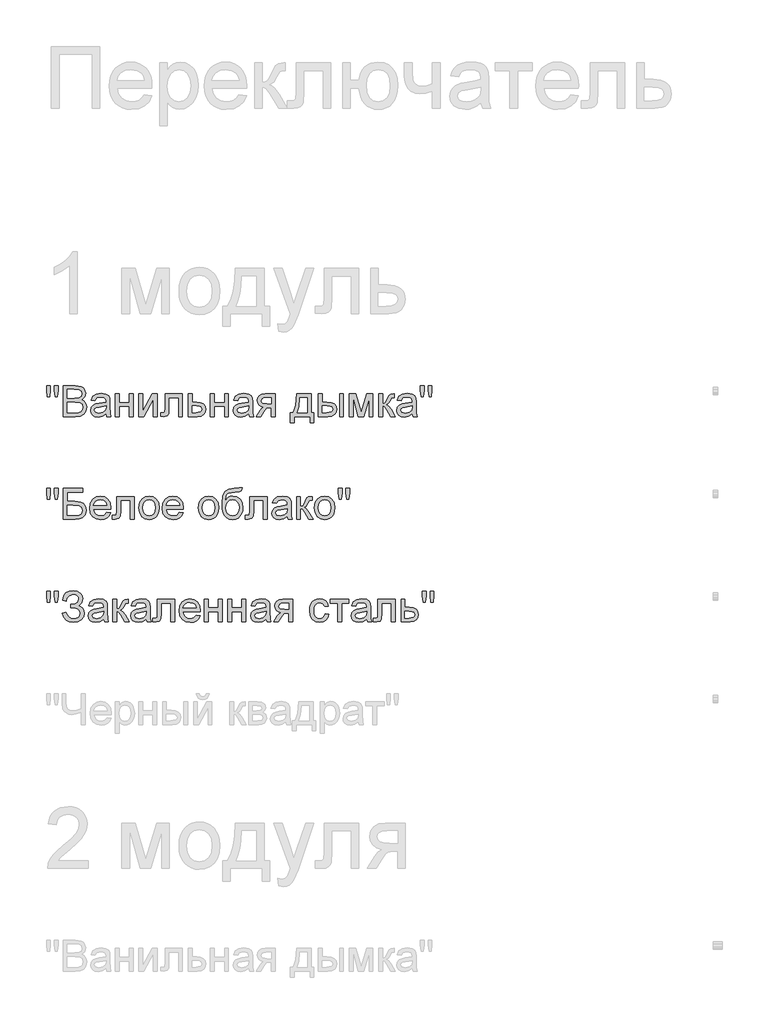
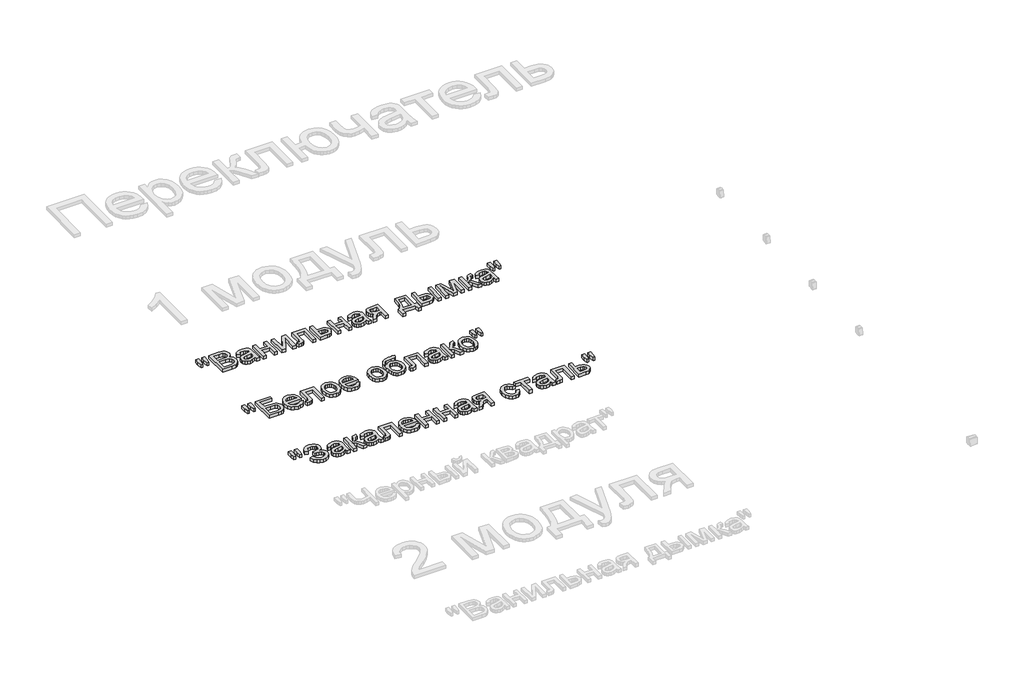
# One storey, part 55 of 168: 3 proxies.
"""IFC4 building model written with IfcOpenShell, lengths in millimetres."""

from ifc_helpers import new_model, si_unit, origin, origin_with_axes, place, context, project, spatial, polyline, outline, extrude, element, save

model = new_model("IFC4")

# Units and contexts
model_context = context("Model", 3, world=origin())
ifc_project = project(units=[si_unit("LENGTHUNIT", "METRE", prefix="MILLI")], contexts=[model_context])

# Site, building, storey
site = spatial("IfcSite", under=ifc_project)
building = spatial("IfcBuilding", under=site)
storey = spatial("IfcBuildingStorey", under=building, Name="Этаж 01", Elevation=0.0)

# Proxies
placement = place(None, origin())
element("IfcBuildingElementProxy", 1, Name="150", ObjectType="150", at=placement, inside=storey, context=model_context, shape_type="SweptSolid", body=[
    extrude(outline(polyline([(49080.1485789, -41970.3300622), (49075.550054, -41941.2305964), (49075.550054, -41916.1778325), (49094.3856121, -41916.1778325), (49094.3856121, -41941.2305964), (49090.2653338, -41970.3300622), (49080.1485789, -41970.3300622)])), origin_with_axes(), (0.0, 0.0, 1.0), 20.0),
    extrude(outline(polyline([(49117.7093306, -41970.3300622), (49113.2211703, -41941.2305964), (49113.2211703, -41916.1778325), (49132.0567284, -41916.1778325), (49132.0567284, -41941.2305964), (49127.6421445, -41970.3300622), (49117.7093306, -41970.3300622)])), origin_with_axes(), (0.0, 0.0, 1.0), 20.0),
    extrude(outline(polyline([(49157.9556209, -42066.8622977), (49157.9556209, -41916.1778325), (49215.4555767, -41916.1778325), (49243.6169435, -41920.6108106), (49253.0807078, -41926.2348066), (49260.2452096, -41934.2408385), (49266.2600803, -41953.517855), (49261.2017028, -41971.1210085), (49245.9162059, -41984.4567308), (49256.5893823, -41990.030143), (49264.4758526, -41998.509823), (49269.3456905, -42009.3347507), (49270.9689698, -42021.9439061), (49266.5359918, -42042.19581), (49255.5547142, -42056.6167842), (49239.1655713, -42064.2687297), (49215.0141183, -42066.8622977), (49157.9556209, -42066.8622977)]), holes=[polyline([(49176.791179, -41977.3933965), (49211.1881456, -41977.3933965), (49231.2745025, -41975.7747157), (49243.3594261, -41968.8033519), (49247.4245221, -41956.5344874), (49243.6353376, -41944.2472287), (49232.7828187, -41936.9815593), (49208.5761834, -41935.0133907), (49176.791179, -41935.0133907), (49176.791179, -41977.3933965)]), polyline([(49176.791179, -42048.0267396), (49215.4187885, -42048.0267396), (49229.3983043, -42047.2909756), (49241.2257105, -42043.1890913), (49249.061597, -42034.819776), (49252.1334117, -42022.1278471), (49248.5281681, -42007.4861437), (49236.8479148, -41998.7489463), (49213.5793786, -41996.2289547), (49176.791179, -41996.2289547), (49176.791179, -42048.0267396)])]), origin_with_axes(), (0.0, 0.0, 1.0), 20.0),
    extrude(outline(polyline([(49365.1467606, -42052.7356291), (49346.8814195, -42065.5011344), (49326.7030921, -42069.2167425), (49310.9623412, -42066.9818594), (49299.3510657, -42060.27721), (49292.1911624, -42050.0960758), (49289.804528, -42037.4317381), (49293.4097715, -42022.5325173), (49302.8827329, -42011.7167867), (49316.0713024, -42005.5363691), (49332.3684748, -42002.7036778), (49365.036396, -41996.2289547), (49365.1467606, -41992.0350999), (49363.8499765, -41983.6289963), (49359.9596244, -41978.1291605), (49351.2592153, -41974.0456704), (49339.1375035, -41972.684507), (49320.0812162, -41976.3081446), (49310.9945309, -41989.1656204), (49292.1589727, -41986.8111756), (49300.3075589, -41968.4170758), (49316.7150959, -41957.6381334), (49341.5655247, -41953.8489488), (49364.3926025, -41957.196675), (49377.2868664, -41965.6027786), (49383.0626137, -41978.3866779), (49383.9823187, -41994.8677913), (49383.9823187, -42018.3018744), (49384.9388119, -42051.0249778), (49388.6912083, -42066.8622977), (49369.8556501, -42066.8622977), (49365.1467606, -42052.7356291)]), holes=[polyline([(49365.1467606, -42015.0645128), (49334.7597078, -42020.8402601), (49318.5545059, -42023.8936807), (49311.2152601, -42028.8600876), (49308.6400861, -42036.1073629), (49314.2502865, -42046.2976942), (49330.7130058, -42050.3811843), (49349.7692932, -42045.8746299), (49362.0565518, -42034.9669288), (49365.036396, -42020.3988017), (49365.1467606, -42015.0645128)])]), origin_with_axes(), (0.0, 0.0, 1.0), 20.0),
    extrude(outline(polyline([(49409.8812112, -41956.2033936), (49428.7167693, -41956.2033936), (49428.7167693, -41998.5833994), (49478.1601095, -41998.5833994), (49478.1601095, -41956.2033936), (49496.9956676, -41956.2033936), (49496.9956676, -42066.8622977), (49478.1601095, -42066.8622977), (49478.1601095, -42017.4189576), (49428.7167693, -42017.4189576), (49428.7167693, -42066.8622977), (49409.8812112, -42066.8622977), (49409.8812112, -41956.2033936)])), origin_with_axes(), (0.0, 0.0, 1.0), 20.0),
    extrude(outline(polyline([(49525.2490049, -41956.2033936), (49544.084563, -41956.2033936), (49544.084563, -42040.5955233), (49590.364118, -41956.2033936), (49614.7179061, -41956.2033936), (49614.7179061, -42066.8622977), (49595.8823479, -42066.8622977), (49595.8823479, -41982.9852028), (49549.8970985, -42066.8622977), (49525.2490049, -42066.8622977), (49525.2490049, -41956.2033936)])), origin_with_axes(), (0.0, 0.0, 1.0), 20.0),
    extrude(outline(polyline([(49652.3890224, -41956.2033936), (49737.1490341, -41956.2033936), (49737.1490341, -42066.7519331), (49718.3134759, -42066.7519331), (49718.3134759, -41975.0389517), (49671.2245806, -41975.0389517), (49671.2245806, -42027.830018), (49669.9553877, -42052.1838061), (49662.9840239, -42062.4661079), (49646.5029105, -42066.8622977), (49631.1990195, -42065.9058045), (49631.1990195, -42048.0267396), (49639.6235172, -42048.0267396), (49648.1399854, -42046.8679113), (49651.5428938, -42043.1890913), (49652.3890224, -42026.7631603), (49652.3890224, -41956.2033936)])), origin_with_axes(), (0.0, 0.0, 1.0), 20.0),
    extrude(outline(polyline([(49765.4023713, -41956.2033936), (49784.2379295, -41956.2033936), (49784.2379295, -41996.2289547), (49805.9429672, -41996.2289547), (49824.7601312, -41998.587998), (49838.6844648, -42005.6651278), (49847.2929034, -42016.8901272), (49850.162383, -42031.692779), (49847.7205663, -42045.1710556), (49840.395116, -42056.5432078), (49827.6985887, -42064.2825252), (49809.1435405, -42066.8622977), (49765.4023713, -42066.8622977), (49765.4023713, -41956.2033936)]), holes=[polyline([(49784.2379295, -42048.0267396), (49801.8226888, -42048.0267396), (49824.539402, -42044.0720081), (49829.6299692, -42039.0090322), (49831.3268249, -42031.7295672), (49826.3052356, -42020.1412843), (49818.2348244, -42016.3337057), (49804.066769, -42015.0645128), (49784.2379295, -42015.0645128), (49784.2379295, -42048.0267396)])]), origin_with_axes(), (0.0, 0.0, 1.0), 20.0),
    extrude(outline(polyline([(49873.7068307, -41956.2033936), (49892.5423889, -41956.2033936), (49892.5423889, -41998.5833994), (49941.985729, -41998.5833994), (49941.985729, -41956.2033936), (49960.8212872, -41956.2033936), (49960.8212872, -42066.8622977), (49941.985729, -42066.8622977), (49941.985729, -42017.4189576), (49892.5423889, -42017.4189576), (49892.5423889, -42066.8622977), (49873.7068307, -42066.8622977), (49873.7068307, -41956.2033936)])), origin_with_axes(), (0.0, 0.0, 1.0), 20.0),
    extrude(outline(polyline([(50059.7079675, -42052.7356291), (50041.4426264, -42065.5011344), (50021.264299, -42069.2167425), (50005.5235481, -42066.9818594), (49993.9122726, -42060.27721), (49986.7523693, -42050.0960758), (49984.3657349, -42037.4317381), (49987.9709784, -42022.5325173), (49997.4439398, -42011.7167867), (50010.6325093, -42005.5363691), (50026.9296817, -42002.7036778), (50059.5976029, -41996.2289547), (50059.7079675, -41992.0350999), (50058.4111834, -41983.6289963), (50054.5208313, -41978.1291605), (50045.8204221, -41974.0456704), (50033.6987104, -41972.684507), (50014.6424231, -41976.3081446), (50005.5557378, -41989.1656204), (49986.7201796, -41986.8111756), (49994.8687658, -41968.4170758), (50011.2763028, -41957.6381334), (50036.1267316, -41953.8489488), (50058.9538094, -41957.196675), (50071.8480733, -41965.6027786), (50077.6238206, -41978.3866779), (50078.5435256, -41994.8677913), (50078.5435256, -42018.3018744), (50079.5000188, -42051.0249778), (50083.2524152, -42066.8622977), (50064.416857, -42066.8622977), (50059.7079675, -42052.7356291)]), holes=[polyline([(50059.7079675, -42015.0645128), (50029.3209147, -42020.8402601), (50013.1157128, -42023.8936807), (50005.776467, -42028.8600876), (50003.201293, -42036.1073629), (50008.8114934, -42046.2976942), (50025.2742127, -42050.3811843), (50044.3305001, -42045.8746299), (50056.6177587, -42034.9669288), (50059.5976029, -42020.3988017), (50059.7079675, -42015.0645128)])]), origin_with_axes(), (0.0, 0.0, 1.0), 20.0),
    extrude(outline(polyline([(50189.2024298, -41956.2033936), (50189.2024298, -42066.8622977), (50170.3668716, -42066.8622977), (50170.3668716, -42024.4822919), (50160.1029639, -42024.4822919), (50146.1234481, -42026.8735249), (50132.9900609, -42042.949968), (50117.9804755, -42066.8622977), (50096.2018614, -42066.8622977), (50115.1109959, -42036.6223977), (50123.4619172, -42025.7698789), (50131.1506509, -42020.9506247), (50118.2747811, -42017.0050903), (50109.224884, -42009.5094947), (50103.872201, -41999.5398926), (50102.0879733, -41988.172339), (50104.5251915, -41975.278075), (50111.8368462, -41965.0693497), (50123.7654199, -41958.4198826), (50140.0533952, -41956.2033936), (50189.2024298, -41956.2033936)]), holes=[polyline([(50170.3668716, -41975.0389517), (50145.5348369, -41975.0389517), (50132.7095509, -41976.1288021), (50125.4300859, -41979.3983534), (50120.9235315, -41989.6070787), (50122.583599, -41996.7853762), (50127.5638015, -42001.7655787), (50151.0898551, -42005.6467337), (50170.3668716, -42005.6467337), (50170.3668716, -41975.0389517)])]), origin_with_axes(), (0.0, 0.0, 1.0), 20.0),
    extrude(outline(polyline([(50292.7979996, -41956.2033936), (50363.4313427, -41956.2033936), (50363.4313427, -42048.0267396), (50377.5580113, -42048.0267396), (50377.5580113, -42097.4700797), (50358.7224531, -42097.4700797), (50358.7224531, -42066.8622977), (50281.0257758, -42066.8622977), (50281.0257758, -42097.4700797), (50262.1902176, -42097.4700797), (50262.1902176, -42048.0267396), (50273.9624415, -42048.0267396), (50282.5202964, -42032.5619002), (50288.5121744, -42012.1030628), (50292.7979996, -41956.2033936)]), holes=[polyline([(50309.279113, -41975.0389517), (50304.864529, -42017.9523865), (50295.1524444, -42048.0267396), (50344.5957845, -42048.0267396), (50344.5957845, -41975.0389517), (50309.279113, -41975.0389517)])]), origin_with_axes(), (0.0, 0.0, 1.0), 20.0),
    extrude(outline(polyline([(50502.3435841, -41956.2033936), (50521.1791422, -41956.2033936), (50521.1791422, -42066.8622977), (50502.3435841, -42066.8622977), (50502.3435841, -41956.2033936)])), origin_with_axes(), (0.0, 0.0, 1.0), 20.0),
    extrude(outline(polyline([(50398.7480142, -41956.2033936), (50417.5835724, -41956.2033936), (50417.5835724, -41996.2289547), (50440.8705027, -41996.2289547), (50460.9982463, -41998.587998), (50475.9112627, -42005.6651278), (50485.1405023, -42016.8901272), (50488.2169154, -42031.692779), (50485.637143, -42045.1710556), (50477.8978255, -42056.5432078), (50464.4931253, -42064.2825252), (50444.9172046, -42066.8622977), (50398.7480142, -42066.8622977), (50398.7480142, -41956.2033936)]), holes=[polyline([(50417.5835724, -42048.0267396), (50436.9341653, -42048.0267396), (50461.9133528, -42044.0720081), (50467.5143562, -42039.0090322), (50469.3813573, -42031.7295672), (50463.8447333, -42020.1412843), (50454.9649816, -42016.3337057), (50439.3989747, -42015.0645128), (50417.5835724, -42015.0645128), (50417.5835724, -42048.0267396)])]), origin_with_axes(), (0.0, 0.0, 1.0), 20.0),
    extrude(outline(polyline([(50549.4324794, -41956.2033936), (50581.8428832, -41956.2033936), (50606.8220707, -42044.789378), (50633.7510327, -41956.2033936), (50664.8002731, -41956.2033936), (50664.8002731, -42066.8622977), (50645.964715, -42066.8622977), (50645.964715, -41977.7612785), (50618.8886001, -42066.8622977), (50594.1669301, -42066.8622977), (50568.2680376, -41973.4938474), (50568.2680376, -42066.8622977), (50549.4324794, -42066.8622977), (50549.4324794, -41956.2033936)])), origin_with_axes(), (0.0, 0.0, 1.0), 20.0),
    extrude(outline(polyline([(50693.0536104, -41956.2033936), (50711.8891685, -41956.2033936), (50711.8891685, -42003.292289), (50724.5075209, -41999.9077746), (50734.845005, -41980.1892997), (50743.4350496, -41963.1747574), (50751.0134187, -41957.6381334), (50764.7905994, -41956.2033936), (50768.395843, -41956.2033936), (50768.395843, -41975.1493163), (50763.3190714, -41975.0389517), (50754.1220216, -41977.0255145), (50747.6472984, -41989.4231377), (50740.0505352, -42002.8324365), (50729.4003515, -42009.3991301), (50741.2829399, -42016.7291788), (50752.9447992, -42032.1710256), (50773.1047325, -42066.8622977), (50751.6940004, -42066.8622977), (50731.9387372, -42032.9067896), (50722.0059234, -42018.5409977), (50711.8891685, -42015.0645128), (50711.8891685, -42066.8622977), (50693.0536104, -42066.8622977), (50693.0536104, -41956.2033936)])), origin_with_axes(), (0.0, 0.0, 1.0), 20.0),
    extrude(outline(polyline([(50855.5102994, -42052.7356291), (50837.2449584, -42065.5011344), (50817.0666309, -42069.2167425), (50801.3258801, -42066.9818594), (50789.7146046, -42060.27721), (50782.5547013, -42050.0960758), (50780.1680668, -42037.4317381), (50783.7733104, -42022.5325173), (50793.2462717, -42011.7167867), (50806.4348413, -42005.5363691), (50822.7320137, -42002.7036778), (50855.3999348, -41996.2289547), (50855.5102994, -41992.0350999), (50854.2135154, -41983.6289963), (50850.3231633, -41978.1291605), (50841.6227541, -41974.0456704), (50829.5010424, -41972.684507), (50810.444755, -41976.3081446), (50801.3580697, -41989.1656204), (50782.5225116, -41986.8111756), (50790.6710978, -41968.4170758), (50807.0786348, -41957.6381334), (50831.9290635, -41953.8489488), (50854.7561413, -41957.196675), (50867.6504053, -41965.6027786), (50873.4261526, -41978.3866779), (50874.3458576, -41994.8677913), (50874.3458576, -42018.3018744), (50875.3023508, -42051.0249778), (50879.0547471, -42066.8622977), (50860.219189, -42066.8622977), (50855.5102994, -42052.7356291)]), holes=[polyline([(50855.5102994, -42015.0645128), (50825.1232466, -42020.8402601), (50808.9180447, -42023.8936807), (50801.5787989, -42028.8600876), (50799.003625, -42036.1073629), (50804.6138254, -42046.2976942), (50821.0765447, -42050.3811843), (50840.132832, -42045.8746299), (50852.4200907, -42034.9669288), (50855.3999348, -42020.3988017), (50855.5102994, -42015.0645128)])]), origin_with_axes(), (0.0, 0.0, 1.0), 20.0),
    extrude(outline(polyline([(50900.1343854, -41970.3300622), (50895.5358605, -41941.2305964), (50895.5358605, -41916.1778325), (50914.3714187, -41916.1778325), (50914.3714187, -41941.2305964), (50910.2511403, -41970.3300622), (50900.1343854, -41970.3300622)])), origin_with_axes(), (0.0, 0.0, 1.0), 20.0),
    extrude(outline(polyline([(50937.6951372, -41970.3300622), (50933.2069768, -41941.2305964), (50933.2069768, -41916.1778325), (50952.042535, -41916.1778325), (50952.042535, -41941.2305964), (50947.627951, -41970.3300622), (50937.6951372, -41970.3300622)])), origin_with_axes(), (0.0, 0.0, 1.0), 20.0),
])
element("IfcBuildingElementProxy", 2, Name="150", ObjectType="150", at=placement, inside=storey, context=model_context, shape_type="SweptSolid", body=[
    extrude(outline(polyline([(49080.1485789, -42470.3300622), (49075.550054, -42441.2305964), (49075.550054, -42416.1778325), (49094.3856121, -42416.1778325), (49094.3856121, -42441.2305964), (49090.2653338, -42470.3300622), (49080.1485789, -42470.3300622)])), origin_with_axes(), (0.0, 0.0, 1.0), 20.0),
    extrude(outline(polyline([(49117.7093306, -42470.3300622), (49113.2211703, -42441.2305964), (49113.2211703, -42416.1778325), (49132.0567284, -42416.1778325), (49132.0567284, -42441.2305964), (49127.6421445, -42470.3300622), (49117.7093306, -42470.3300622)])), origin_with_axes(), (0.0, 0.0, 1.0), 20.0),
    extrude(outline(polyline([(49157.9556209, -42416.1778325), (49252.1334117, -42416.1778325), (49252.1334117, -42435.0133907), (49176.791179, -42435.0133907), (49176.791179, -42479.7478413), (49212.0710624, -42479.7478413), (49243.157091, -42483.573814), (49253.5589544, -42489.101241), (49261.6615553, -42498.0315764), (49266.8762826, -42509.5278888), (49268.614525, -42522.7532465), (49263.6665122, -42544.2191609), (49248.8960501, -42560.5347274), (49235.6247071, -42565.2804052), (49215.4555767, -42566.8622977), (49157.9556209, -42566.8622977), (49157.9556209, -42416.1778325)]), holes=[polyline([(49176.791179, -42548.0267396), (49217.1478339, -42548.0267396), (49231.4124583, -42546.4724382), (49241.6119866, -42541.8095339), (49247.7372218, -42534.0380267), (49249.7789669, -42523.1579167), (49245.1068655, -42508.4058487), (49232.102237, -42500.533174), (49203.7201411, -42498.5833994), (49176.791179, -42498.5833994), (49176.791179, -42548.0267396)])]), origin_with_axes(), (0.0, 0.0, 1.0), 20.0),
    extrude(outline(polyline([(49369.6349209, -42533.900071), (49388.1025971, -42536.2545157), (49381.4485315, -42550.1696522), (49370.8305374, -42560.5715156), (49356.4877381, -42567.0554358), (49338.6592569, -42569.2167425), (49316.5587461, -42565.4873388), (49299.5534008, -42554.2991276), (49288.710079, -42536.3786759), (49285.0956384, -42512.4525506), (49288.7468672, -42487.7216835), (49299.7005536, -42469.2264162), (49316.4759726, -42457.6933157), (49337.5923991, -42453.8489488), (49358.0512366, -42457.6841186), (49374.3989927, -42469.189628), (49385.1181544, -42487.6481071), (49388.6912083, -42512.342186), (49388.5808437, -42517.4189576), (49303.9311966, -42517.4189576), (49307.1915508, -42531.518035), (49314.7653213, -42541.8831103), (49325.6960151, -42548.2566658), (49339.0271389, -42550.3811843), (49357.4948151, -42546.444847), (49369.6349209, -42533.900071)]), holes=[polyline([(49303.9311966, -42498.5833994), (49369.8556501, -42498.5833994), (49367.3080673, -42488.6321915), (49362.3140692, -42481.5136749), (49351.3327917, -42474.8917989), (49337.5188227, -42472.684507), (49324.8222954, -42474.445742), (49314.3238629, -42479.7294472), (49307.0260039, -42487.9654053), (49303.9311966, -42498.5833994)])]), origin_with_axes(), (0.0, 0.0, 1.0), 20.0),
    extrude(outline(polyline([(49416.9445455, -42456.2033936), (49501.7045572, -42456.2033936), (49501.7045572, -42566.7519331), (49482.868999, -42566.7519331), (49482.868999, -42475.0389517), (49435.7801036, -42475.0389517), (49435.7801036, -42527.830018), (49434.5109108, -42552.1838061), (49427.539547, -42562.4661079), (49411.0584336, -42566.8622977), (49395.7545426, -42565.9058045), (49395.7545426, -42548.0267396), (49404.1790403, -42548.0267396), (49412.6955084, -42546.8679113), (49416.0984169, -42543.1890913), (49416.9445455, -42526.7631603), (49416.9445455, -42456.2033936)])), origin_with_axes(), (0.0, 0.0, 1.0), 20.0),
    extrude(outline(polyline([(49525.2490049, -42511.5328457), (49529.323298, -42484.852204), (49541.5461773, -42466.0994193), (49556.6477332, -42456.9115664), (49574.7291332, -42453.8489488), (49594.516586, -42457.5783525), (49610.3217163, -42468.7665637), (49620.6821929, -42486.5306656), (49624.1356852, -42509.9877413), (49622.6089749, -42529.0164375), (49618.0288441, -42543.501791), (49610.5286499, -42554.3497114), (49600.2417496, -42562.4661079), (49588.0234688, -42567.5290839), (49574.7291332, -42569.2167425), (49554.7025571, -42565.5011344), (49538.915821, -42554.3543099), (49528.6657089, -42536.2177275), (49525.2490049, -42511.5328457)]), holes=[polyline([(49544.084563, -42511.4960575), (49546.2642638, -42528.5427894), (49552.8033663, -42540.6874938), (49562.6442097, -42547.9577617), (49574.7291332, -42550.3811843), (49586.7588745, -42547.9439661), (49596.5813237, -42540.6323115), (49603.1204262, -42528.3266587), (49605.300127, -42510.9074463), (49603.1066306, -42494.357355), (49596.5261414, -42482.3781975), (49586.6898966, -42475.1079296), (49574.7291332, -42472.684507), (49562.6442097, -42475.0987326), (49552.8033663, -42482.3414093), (49546.2642638, -42494.4585226), (49544.084563, -42511.4960575)])]), origin_with_axes(), (0.0, 0.0, 1.0), 20.0),
    extrude(outline(polyline([(49722.8016363, -42533.900071), (49741.2693124, -42536.2545157), (49734.6152469, -42550.1696522), (49723.9972528, -42560.5715156), (49709.6544535, -42567.0554358), (49691.8259723, -42569.2167425), (49669.7254614, -42565.4873388), (49652.7201162, -42554.2991276), (49641.8767944, -42536.3786759), (49638.2623538, -42512.4525506), (49641.9135826, -42487.7216835), (49652.867269, -42469.2264162), (49669.642688, -42457.6933157), (49690.7591145, -42453.8489488), (49711.217952, -42457.6841186), (49727.5657081, -42469.189628), (49738.2848698, -42487.6481071), (49741.8579236, -42512.342186), (49741.747559, -42517.4189576), (49657.0979119, -42517.4189576), (49660.3582661, -42531.518035), (49667.9320367, -42541.8831103), (49678.8627305, -42548.2566658), (49692.1938543, -42550.3811843), (49710.6615304, -42546.444847), (49722.8016363, -42533.900071)]), holes=[polyline([(49657.0979119, -42498.5833994), (49723.0223655, -42498.5833994), (49720.4747827, -42488.6321915), (49715.4807846, -42481.5136749), (49704.499507, -42474.8917989), (49690.6855381, -42472.684507), (49677.9890107, -42474.445742), (49667.4905783, -42479.7294472), (49660.1927192, -42487.9654053), (49657.0979119, -42498.5833994)])]), origin_with_axes(), (0.0, 0.0, 1.0), 20.0),
    extrude(outline(polyline([(49814.8457115, -42511.5328457), (49818.9200046, -42484.852204), (49831.1428839, -42466.0994193), (49846.2444398, -42456.9115664), (49864.3258398, -42453.8489488), (49884.1132926, -42457.5783525), (49899.9184229, -42468.7665637), (49910.2788995, -42486.5306656), (49913.7323918, -42509.9877413), (49912.2056815, -42529.0164375), (49907.6255507, -42543.501791), (49900.1253565, -42554.3497114), (49889.8384562, -42562.4661079), (49877.6201754, -42567.5290839), (49864.3258398, -42569.2167425), (49844.2992637, -42565.5011344), (49828.5125276, -42554.3543099), (49818.2624155, -42536.2177275), (49814.8457115, -42511.5328457)]), holes=[polyline([(49833.6812696, -42511.4960575), (49835.8609704, -42528.5427894), (49842.4000729, -42540.6874938), (49852.2409163, -42547.9577617), (49864.3258398, -42550.3811843), (49876.3555811, -42547.9439661), (49886.1780303, -42540.6323115), (49892.7171328, -42528.3266587), (49894.8968336, -42510.9074463), (49892.7033372, -42494.357355), (49886.122848, -42482.3781975), (49876.2866032, -42475.1079296), (49864.3258398, -42472.684507), (49852.2409163, -42475.0987326), (49842.4000729, -42482.3414093), (49835.8609704, -42494.4585226), (49833.6812696, -42511.4960575)])]), origin_with_axes(), (0.0, 0.0, 1.0), 20.0),
    extrude(outline(polyline([(50012.6190721, -42413.8233877), (50029.1001855, -42413.8233877), (50024.2441431, -42428.5202734), (50014.6424231, -42433.8361683), (49991.576222, -42435.0133907), (49960.5085875, -42439.3543982), (49953.3808738, -42445.0013868), (49948.5892108, -42453.2603376), (49944.560903, -42477.8716431), (49960.8764695, -42459.8454253), (49970.7954878, -42455.3480679), (49981.9009255, -42453.8489488), (50001.4998388, -42457.661126), (50017.401538, -42469.0976575), (50027.9413572, -42487.0365033), (50031.4546302, -42510.3556233), (50029.7117893, -42528.3358558), (50024.4832664, -42542.766027), (50007.9469707, -42562.3189551), (49996.6529935, -42567.4922957), (49981.9009255, -42569.2167425), (49964.9001788, -42566.995655), (49952.1576662, -42560.3323923), (49942.7812738, -42550.2064404), (49935.8788879, -42537.597285), (49931.6298508, -42518.6099755), (49930.2135052, -42489.3495614), (49933.786559, -42453.2097538), (49944.5057207, -42431.1690238), (49962.6377045, -42419.9256303), (49988.449225, -42416.1778325), (50009.4184987, -42415.7547682), (50012.6190721, -42413.8233877)]), holes=[polyline([(50012.6190721, -42509.7670121), (50010.577327, -42494.9459662), (50004.4520918, -42483.0771733), (49994.6112484, -42475.2826736), (49981.4226789, -42472.684507), (49967.6730893, -42475.4298264), (49957.473561, -42483.6657845), (49951.1551877, -42496.4910706), (49949.0490633, -42513.0043736), (49951.3759169, -42529.011839), (49958.3564778, -42540.7610702), (49968.7491442, -42547.9761558), (49981.3123143, -42550.3811843), (49993.9398638, -42547.5990768), (50003.937057, -42539.252754), (50010.4485683, -42526.3171033), (50012.6190721, -42509.7670121)])]), origin_with_axes(), (0.0, 0.0, 1.0), 20.0),
    extrude(outline(polyline([(50064.416857, -42456.2033936), (50149.1768687, -42456.2033936), (50149.1768687, -42566.7519331), (50130.3413105, -42566.7519331), (50130.3413105, -42475.0389517), (50083.2524152, -42475.0389517), (50083.2524152, -42527.830018), (50081.9832223, -42552.1838061), (50075.0118585, -42562.4661079), (50058.5307451, -42566.8622977), (50043.2268541, -42565.9058045), (50043.2268541, -42548.0267396), (50051.6513518, -42548.0267396), (50060.16782, -42546.8679113), (50063.5707284, -42543.1890913), (50064.416857, -42526.7631603), (50064.416857, -42456.2033936)])), origin_with_axes(), (0.0, 0.0, 1.0), 20.0),
    extrude(outline(polyline([(50248.063549, -42552.7356291), (50229.7982079, -42565.5011344), (50209.6198805, -42569.2167425), (50193.8791296, -42566.9818594), (50182.2678542, -42560.27721), (50175.1079508, -42550.0960758), (50172.7213164, -42537.4317381), (50176.3265599, -42522.5325173), (50185.7995213, -42511.7167867), (50198.9880908, -42505.5363691), (50215.2852632, -42502.7036778), (50247.9531844, -42496.2289547), (50248.063549, -42492.0350999), (50246.766765, -42483.6289963), (50242.8764129, -42478.1291605), (50234.1760037, -42474.0456704), (50222.0542919, -42472.684507), (50202.9980046, -42476.3081446), (50193.9113193, -42489.1656204), (50175.0757612, -42486.8111756), (50183.2243473, -42468.4170758), (50199.6318843, -42457.6381334), (50224.4823131, -42453.8489488), (50247.3093909, -42457.196675), (50260.2036548, -42465.6027786), (50265.9794022, -42478.3866779), (50266.8991071, -42494.8677913), (50266.8991071, -42518.3018744), (50267.8556003, -42551.0249778), (50271.6079967, -42566.8622977), (50252.7724385, -42566.8622977), (50248.063549, -42552.7356291)]), holes=[polyline([(50248.063549, -42515.0645128), (50217.6764962, -42520.8402601), (50201.4712943, -42523.8936807), (50194.1320485, -42528.8600876), (50191.5568745, -42536.1073629), (50197.167075, -42546.2976942), (50213.6297942, -42550.3811843), (50232.6860816, -42545.8746299), (50244.9733402, -42534.9669288), (50247.9531844, -42520.3988017), (50248.063549, -42515.0645128)])]), origin_with_axes(), (0.0, 0.0, 1.0), 20.0),
    extrude(outline(polyline([(50292.7979996, -42456.2033936), (50311.6335578, -42456.2033936), (50311.6335578, -42503.292289), (50324.2519102, -42499.9077746), (50334.5893943, -42480.1892997), (50343.1794388, -42463.1747574), (50350.7578079, -42457.6381334), (50364.5349887, -42456.2033936), (50368.1402322, -42456.2033936), (50368.1402322, -42475.1493163), (50363.0634607, -42475.0389517), (50353.8664108, -42477.0255145), (50347.3916877, -42489.4231377), (50339.7949245, -42502.8324365), (50329.1447407, -42509.3991301), (50341.0273292, -42516.7291788), (50352.6891884, -42532.1710256), (50372.8491218, -42566.8622977), (50351.4383896, -42566.8622977), (50331.6831265, -42532.9067896), (50321.7503126, -42518.5409977), (50311.6335578, -42515.0645128), (50311.6335578, -42566.8622977), (50292.7979996, -42566.8622977), (50292.7979996, -42456.2033936)])), origin_with_axes(), (0.0, 0.0, 1.0), 20.0),
    extrude(outline(polyline([(50379.9124561, -42511.5328457), (50383.9867492, -42484.852204), (50396.2096285, -42466.0994193), (50411.3111844, -42456.9115664), (50429.3925844, -42453.8489488), (50449.1800372, -42457.5783525), (50464.9851674, -42468.7665637), (50475.3456441, -42486.5306656), (50478.7991364, -42509.9877413), (50477.2724261, -42529.0164375), (50472.6922952, -42543.501791), (50465.1921011, -42554.3497114), (50454.9052008, -42562.4661079), (50442.68692, -42567.5290839), (50429.3925844, -42569.2167425), (50409.3660083, -42565.5011344), (50393.5792722, -42554.3543099), (50383.3291601, -42536.2177275), (50379.9124561, -42511.5328457)]), holes=[polyline([(50398.7480142, -42511.4960575), (50400.927715, -42528.5427894), (50407.4668175, -42540.6874938), (50417.3076609, -42547.9577617), (50429.3925844, -42550.3811843), (50441.4223257, -42547.9439661), (50451.2447749, -42540.6323115), (50457.7838774, -42528.3266587), (50459.9635782, -42510.9074463), (50457.7700818, -42494.357355), (50451.1895926, -42482.3781975), (50441.3533478, -42475.1079296), (50429.3925844, -42472.684507), (50417.3076609, -42475.0987326), (50407.4668175, -42482.3414093), (50400.927715, -42494.4585226), (50398.7480142, -42511.4960575)])]), origin_with_axes(), (0.0, 0.0, 1.0), 20.0),
    extrude(outline(polyline([(50499.8787747, -42470.3300622), (50495.2802498, -42441.2305964), (50495.2802498, -42416.1778325), (50514.1158079, -42416.1778325), (50514.1158079, -42441.2305964), (50509.9955296, -42470.3300622), (50499.8787747, -42470.3300622)])), origin_with_axes(), (0.0, 0.0, 1.0), 20.0),
    extrude(outline(polyline([(50537.4395264, -42470.3300622), (50532.9513661, -42441.2305964), (50532.9513661, -42416.1778325), (50551.7869242, -42416.1778325), (50551.7869242, -42441.2305964), (50547.3723403, -42470.3300622), (50537.4395264, -42470.3300622)])), origin_with_axes(), (0.0, 0.0, 1.0), 20.0),
])
element("IfcBuildingElementProxy", 3, Name="150", ObjectType="150", at=placement, inside=storey, context=model_context, shape_type="SweptSolid", body=[
    extrude(outline(polyline([(49080.1485789, -42970.3300622), (49075.550054, -42941.2305964), (49075.550054, -42916.1778325), (49094.3856121, -42916.1778325), (49094.3856121, -42941.2305964), (49090.2653338, -42970.3300622), (49080.1485789, -42970.3300622)])), origin_with_axes(), (0.0, 0.0, 1.0), 20.0),
    extrude(outline(polyline([(49117.7093306, -42970.3300622), (49113.2211703, -42941.2305964), (49113.2211703, -42916.1778325), (49132.0567284, -42916.1778325), (49132.0567284, -42941.2305964), (49127.6421445, -42970.3300622), (49117.7093306, -42970.3300622)])), origin_with_axes(), (0.0, 0.0, 1.0), 20.0),
    extrude(outline(polyline([(49150.8922866, -43024.4822919), (49169.7278447, -43019.7734024), (49181.2977335, -43040.172459), (49192.2284273, -43047.829003), (49206.2217387, -43050.3811843), (49220.398991, -43048.4635995), (49231.2193202, -43042.7108448), (49238.0757209, -43034.2449603), (49240.3611878, -43024.1879863), (49237.8641888, -43013.6527657), (49230.3731916, -43005.517975), (49218.5779752, -43000.3170433), (49203.1683181, -42998.5833994), (49193.2722924, -42998.5833994), (49193.2722924, -42979.7478413), (49214.591054, -42978.221131), (49227.6324708, -42970.4220327), (49233.2978535, -42956.1666054), (49231.4124583, -42947.2960508), (49225.7562726, -42939.6670979), (49216.8811195, -42934.4109839), (49205.3388219, -42932.6589459), (49186.1169876, -42938.0484171), (49175.117316, -42952.3406326), (49172.0822895, -42965.6211727), (49153.2467313, -42960.9122831), (49159.0983543, -42940.3108914), (49169.7002536, -42925.5956116), (49185.0524291, -42916.7664437), (49205.1548809, -42913.8233877), (49224.5468605, -42916.8814068), (49239.4598769, -42926.0554641), (49248.965028, -42939.3222085), (49252.1334117, -42954.6582892), (49247.2037929, -42973.3007093), (49232.4149367, -42987.2158458), (49242.8903765, -42992.0396984), (49251.5080123, -43000.1836861), (49257.2745625, -43010.948833), (49259.196746, -43023.6361633), (49255.508729, -43041.4738415), (49244.444678, -43056.1385376), (49227.2921799, -43065.9471913), (49205.3388219, -43069.2167425), (49186.2365493, -43066.4208393), (49170.7947025, -43058.0331298), (49159.0132816, -43044.053614), (49150.8922866, -43024.4822919)])), origin_with_axes(), (0.0, 0.0, 1.0), 20.0),
    extrude(outline(polyline([(49353.3745367, -43052.7356291), (49335.1091957, -43065.5011344), (49314.9308682, -43069.2167425), (49299.1901174, -43066.9818594), (49287.5788419, -43060.27721), (49280.4189386, -43050.0960758), (49278.0323041, -43037.4317381), (49281.6375477, -43022.5325173), (49291.110509, -43011.7167867), (49304.2990786, -43005.5363691), (49320.596251, -43002.7036778), (49353.2641721, -42996.2289547), (49353.3745367, -42992.0350999), (49352.0777527, -42983.6289963), (49348.1874006, -42978.1291605), (49339.4869914, -42974.0456704), (49327.3652797, -42972.684507), (49308.3089923, -42976.3081446), (49299.222307, -42989.1656204), (49280.3867489, -42986.8111756), (49288.5353351, -42968.4170758), (49304.9428721, -42957.6381334), (49329.7933008, -42953.8489488), (49352.6203786, -42957.196675), (49365.5146426, -42965.6027786), (49371.2903899, -42978.3866779), (49372.2100949, -42994.8677913), (49372.2100949, -43018.3018744), (49373.1665881, -43051.0249778), (49376.9189844, -43066.8622977), (49358.0834263, -43066.8622977), (49353.3745367, -43052.7356291)]), holes=[polyline([(49353.3745367, -43015.0645128), (49322.9874839, -43020.8402601), (49306.782282, -43023.8936807), (49299.4430362, -43028.8600876), (49296.8678623, -43036.1073629), (49302.4780627, -43046.2976942), (49318.940782, -43050.3811843), (49337.9970693, -43045.8746299), (49350.284328, -43034.9669288), (49353.2641721, -43020.3988017), (49353.3745367, -43015.0645128)])]), origin_with_axes(), (0.0, 0.0, 1.0), 20.0),
    extrude(outline(polyline([(49398.1089873, -42956.2033936), (49416.9445455, -42956.2033936), (49416.9445455, -43003.292289), (49429.5628979, -42999.9077746), (49439.900382, -42980.1892997), (49448.4904266, -42963.1747574), (49456.0687957, -42957.6381334), (49469.8459764, -42956.2033936), (49473.4512199, -42956.2033936), (49473.4512199, -42975.1493163), (49468.3744484, -42975.0389517), (49459.1773985, -42977.0255145), (49452.7026754, -42989.4231377), (49445.1059122, -43002.8324365), (49434.4557285, -43009.3991301), (49446.3383169, -43016.7291788), (49458.0001762, -43032.1710256), (49478.1601095, -43066.8622977), (49456.7493774, -43066.8622977), (49436.9941142, -43032.9067896), (49427.0613004, -43018.5409977), (49416.9445455, -43015.0645128), (49416.9445455, -43066.8622977), (49398.1089873, -43066.8622977), (49398.1089873, -42956.2033936)])), origin_with_axes(), (0.0, 0.0, 1.0), 20.0),
    extrude(outline(polyline([(49560.5656764, -43052.7356291), (49542.3003353, -43065.5011344), (49522.1220079, -43069.2167425), (49506.381257, -43066.9818594), (49494.7699816, -43060.27721), (49487.6100782, -43050.0960758), (49485.2234438, -43037.4317381), (49488.8286873, -43022.5325173), (49498.3016487, -43011.7167867), (49511.4902183, -43005.5363691), (49527.7873906, -43002.7036778), (49560.4553118, -42996.2289547), (49560.5656764, -42992.0350999), (49559.2688924, -42983.6289963), (49555.3785403, -42978.1291605), (49546.6781311, -42974.0456704), (49534.5564193, -42972.684507), (49515.500132, -42976.3081446), (49506.4134467, -42989.1656204), (49487.5778886, -42986.8111756), (49495.7264748, -42968.4170758), (49512.1340117, -42957.6381334), (49536.9844405, -42953.8489488), (49559.8115183, -42957.196675), (49572.7057822, -42965.6027786), (49578.4815296, -42978.3866779), (49579.4012346, -42994.8677913), (49579.4012346, -43018.3018744), (49580.3577277, -43051.0249778), (49584.1101241, -43066.8622977), (49565.2745659, -43066.8622977), (49560.5656764, -43052.7356291)]), holes=[polyline([(49560.5656764, -43015.0645128), (49530.1786236, -43020.8402601), (49513.9734217, -43023.8936807), (49506.6341759, -43028.8600876), (49504.0590019, -43036.1073629), (49509.6692024, -43046.2976942), (49526.1319217, -43050.3811843), (49545.188209, -43045.8746299), (49557.4754676, -43034.9669288), (49560.4553118, -43020.3988017), (49560.5656764, -43015.0645128)])]), origin_with_axes(), (0.0, 0.0, 1.0), 20.0),
    extrude(outline(polyline([(49614.7179061, -42956.2033936), (49699.4779178, -42956.2033936), (49699.4779178, -43066.7519331), (49680.6423596, -43066.7519331), (49680.6423596, -42975.0389517), (49633.5534643, -42975.0389517), (49633.5534643, -43027.830018), (49632.2842714, -43052.1838061), (49625.3129076, -43062.4661079), (49608.8317942, -43066.8622977), (49593.5279032, -43065.9058045), (49593.5279032, -43048.0267396), (49601.9524009, -43048.0267396), (49610.4688691, -43046.8679113), (49613.8717775, -43043.1890913), (49614.7179061, -43026.7631603), (49614.7179061, -42956.2033936)])), origin_with_axes(), (0.0, 0.0, 1.0), 20.0),
    extrude(outline(polyline([(49805.2072032, -43033.900071), (49823.6748794, -43036.2545157), (49817.0208138, -43050.1696522), (49806.4028197, -43060.5715156), (49792.0600204, -43067.0554358), (49774.2315392, -43069.2167425), (49752.1310283, -43065.4873388), (49735.1256831, -43054.2991276), (49724.2823613, -43036.3786759), (49720.6679207, -43012.4525506), (49724.3191495, -42987.7216835), (49735.2728359, -42969.2264162), (49752.0482549, -42957.6933157), (49773.1646814, -42953.8489488), (49793.6235189, -42957.6841186), (49809.971275, -42969.189628), (49820.6904367, -42987.6481071), (49824.2634906, -43012.342186), (49824.153126, -43017.4189576), (49739.5034789, -43017.4189576), (49742.763833, -43031.518035), (49750.3376036, -43041.8831103), (49761.2682974, -43048.2566658), (49774.5994212, -43050.3811843), (49793.0670974, -43046.444847), (49805.2072032, -43033.900071)]), holes=[polyline([(49739.5034789, -42998.5833994), (49805.4279324, -42998.5833994), (49802.8803496, -42988.6321915), (49797.8863515, -42981.5136749), (49786.9050739, -42974.8917989), (49773.091105, -42972.684507), (49760.3945777, -42974.445742), (49749.8961452, -42979.7294472), (49742.5982861, -42987.9654053), (49739.5034789, -42998.5833994)])]), origin_with_axes(), (0.0, 0.0, 1.0), 20.0),
    extrude(outline(polyline([(49843.0990487, -42956.2033936), (49861.9346069, -42956.2033936), (49861.9346069, -42998.5833994), (49911.377947, -42998.5833994), (49911.377947, -42956.2033936), (49930.2135052, -42956.2033936), (49930.2135052, -43066.8622977), (49911.377947, -43066.8622977), (49911.377947, -43017.4189576), (49861.9346069, -43017.4189576), (49861.9346069, -43066.8622977), (49843.0990487, -43066.8622977), (49843.0990487, -42956.2033936)])), origin_with_axes(), (0.0, 0.0, 1.0), 20.0),
    extrude(outline(polyline([(49958.4668424, -42956.2033936), (49977.3024005, -42956.2033936), (49977.3024005, -42998.5833994), (50026.7457407, -42998.5833994), (50026.7457407, -42956.2033936), (50045.5812988, -42956.2033936), (50045.5812988, -43066.8622977), (50026.7457407, -43066.8622977), (50026.7457407, -43017.4189576), (49977.3024005, -43017.4189576), (49977.3024005, -43066.8622977), (49958.4668424, -43066.8622977), (49958.4668424, -42956.2033936)])), origin_with_axes(), (0.0, 0.0, 1.0), 20.0),
    extrude(outline(polyline([(50144.4679792, -43052.7356291), (50126.2026381, -43065.5011344), (50106.0243107, -43069.2167425), (50090.2835598, -43066.9818594), (50078.6722843, -43060.27721), (50071.512381, -43050.0960758), (50069.1257465, -43037.4317381), (50072.7309901, -43022.5325173), (50082.2039515, -43011.7167867), (50095.392521, -43005.5363691), (50111.6896934, -43002.7036778), (50144.3576146, -42996.2289547), (50144.4679792, -42992.0350999), (50143.1711951, -42983.6289963), (50139.280843, -42978.1291605), (50130.5804338, -42974.0456704), (50118.4587221, -42972.684507), (50099.4024347, -42976.3081446), (50090.3157495, -42989.1656204), (50071.4801913, -42986.8111756), (50079.6287775, -42968.4170758), (50096.0363145, -42957.6381334), (50120.8867433, -42953.8489488), (50143.7138211, -42957.196675), (50156.608085, -42965.6027786), (50162.3838323, -42978.3866779), (50163.3035373, -42994.8677913), (50163.3035373, -43018.3018744), (50164.2600305, -43051.0249778), (50168.0124268, -43066.8622977), (50149.1768687, -43066.8622977), (50144.4679792, -43052.7356291)]), holes=[polyline([(50144.4679792, -43015.0645128), (50114.0809264, -43020.8402601), (50097.8757245, -43023.8936807), (50090.5364787, -43028.8600876), (50087.9613047, -43036.1073629), (50093.5715051, -43046.2976942), (50110.0342244, -43050.3811843), (50129.0905118, -43045.8746299), (50141.3777704, -43034.9669288), (50144.3576146, -43020.3988017), (50144.4679792, -43015.0645128)])]), origin_with_axes(), (0.0, 0.0, 1.0), 20.0),
    extrude(outline(polyline([(50273.9624415, -42956.2033936), (50273.9624415, -43066.8622977), (50255.1268833, -43066.8622977), (50255.1268833, -43024.4822919), (50244.8629756, -43024.4822919), (50230.8834598, -43026.8735249), (50217.7500726, -43042.949968), (50202.7404872, -43066.8622977), (50180.9618731, -43066.8622977), (50199.8710076, -43036.6223977), (50208.2219289, -43025.7698789), (50215.9106626, -43020.9506247), (50203.0347928, -43017.0050903), (50193.9848957, -43009.5094947), (50188.6322127, -42999.5398926), (50186.847985, -42988.172339), (50189.2852032, -42975.278075), (50196.5968579, -42965.0693497), (50208.5254316, -42958.4198826), (50224.8134069, -42956.2033936), (50273.9624415, -42956.2033936)]), holes=[polyline([(50255.1268833, -42975.0389517), (50230.2948486, -42975.0389517), (50217.4695626, -42976.1288021), (50210.1900976, -42979.3983534), (50205.6835431, -42989.6070787), (50207.3436107, -42996.7853762), (50212.3238132, -43001.7655787), (50235.8498668, -43005.6467337), (50255.1268833, -43005.6467337), (50255.1268833, -42975.0389517)])]), origin_with_axes(), (0.0, 0.0, 1.0), 20.0),
    extrude(outline(polyline([(50431.710241, -43026.8367367), (50450.5457991, -43029.1911814), (50445.2942837, -43045.9436078), (50435.4258491, -43058.6033469), (50421.8693976, -43066.5633936), (50405.5538311, -43069.2167425), (50385.518058, -43065.5149299), (50369.8508835, -43054.4094922), (50359.7387272, -43036.387873), (50356.3680084, -43011.9375159), (50357.8073467, -42995.1758924), (50362.1253616, -42980.6491522), (50369.391031, -42968.918315), (50379.6733328, -42960.5444011), (50391.974387, -42955.5228119), (50405.2963137, -42953.8489488), (50421.2118085, -42956.1482113), (50433.9359271, -42963.0459987), (50443.0639991, -42974.174429), (50448.1913544, -42989.1656204), (50429.3557962, -42991.5200651), (50420.6185988, -42977.4117906), (50405.4434665, -42972.684507), (50393.271171, -42975.0113606), (50383.6096701, -42981.9919214), (50377.3050924, -42994.0032686), (50375.2035665, -43011.4224811), (50377.2591072, -43029.0762183), (50383.4257291, -43041.1289522), (50392.9124861, -43048.0681263), (50404.9284317, -43050.3811843), (50414.6819031, -43048.9372475), (50422.678738, -43044.605437), (50428.4958721, -43037.2753883), (50431.710241, -43026.8367367)])), origin_with_axes(), (0.0, 0.0, 1.0), 20.0),
    extrude(outline(polyline([(50457.6091334, -42956.2033936), (50547.0780347, -42956.2033936), (50547.0780347, -42975.0389517), (50511.7613631, -42975.0389517), (50511.7613631, -43066.8622977), (50492.925805, -43066.8622977), (50492.925805, -42975.0389517), (50457.6091334, -42975.0389517), (50457.6091334, -42956.2033936)])), origin_with_axes(), (0.0, 0.0, 1.0), 20.0),
    extrude(outline(polyline([(50634.1924911, -43052.7356291), (50615.9271501, -43065.5011344), (50595.7488226, -43069.2167425), (50580.0080718, -43066.9818594), (50568.3967963, -43060.27721), (50561.236893, -43050.0960758), (50558.8502585, -43037.4317381), (50562.4555021, -43022.5325173), (50571.9284634, -43011.7167867), (50585.117033, -43005.5363691), (50601.4142054, -43002.7036778), (50634.0821265, -42996.2289547), (50634.1924911, -42992.0350999), (50632.8957071, -42983.6289963), (50629.005355, -42978.1291605), (50620.3049458, -42974.0456704), (50608.1832341, -42972.684507), (50589.1269467, -42976.3081446), (50580.0402614, -42989.1656204), (50561.2047033, -42986.8111756), (50569.3532895, -42968.4170758), (50585.7608265, -42957.6381334), (50610.6112552, -42953.8489488), (50633.438333, -42957.196675), (50646.332597, -42965.6027786), (50652.1083443, -42978.3866779), (50653.0280493, -42994.8677913), (50653.0280493, -43018.3018744), (50653.9845425, -43051.0249778), (50657.7369388, -43066.8622977), (50638.9013807, -43066.8622977), (50634.1924911, -43052.7356291)]), holes=[polyline([(50634.1924911, -43015.0645128), (50603.8054383, -43020.8402601), (50587.6002364, -43023.8936807), (50580.2609906, -43028.8600876), (50577.6858167, -43036.1073629), (50583.2960171, -43046.2976942), (50599.7587364, -43050.3811843), (50618.8150237, -43045.8746299), (50631.1022824, -43034.9669288), (50634.0821265, -43020.3988017), (50634.1924911, -43015.0645128)])]), origin_with_axes(), (0.0, 0.0, 1.0), 20.0),
    extrude(outline(polyline([(50688.3447208, -42956.2033936), (50773.1047325, -42956.2033936), (50773.1047325, -43066.7519331), (50754.2691744, -43066.7519331), (50754.2691744, -42975.0389517), (50707.180279, -42975.0389517), (50707.180279, -43027.830018), (50705.9110861, -43052.1838061), (50698.9397223, -43062.4661079), (50682.4586089, -43066.8622977), (50667.1547179, -43065.9058045), (50667.1547179, -43048.0267396), (50675.5792156, -43048.0267396), (50684.0956838, -43046.8679113), (50687.4985922, -43043.1890913), (50688.3447208, -43026.7631603), (50688.3447208, -42956.2033936)])), origin_with_axes(), (0.0, 0.0, 1.0), 20.0),
    extrude(outline(polyline([(50801.3580697, -42956.2033936), (50820.1936279, -42956.2033936), (50820.1936279, -42996.2289547), (50841.8986656, -42996.2289547), (50860.7158297, -42998.587998), (50874.6401632, -43005.6651278), (50883.2486019, -43016.8901272), (50886.1180814, -43031.692779), (50883.6762647, -43045.1710556), (50876.3508145, -43056.5432078), (50863.6542871, -43064.2825252), (50845.099239, -43066.8622977), (50801.3580697, -43066.8622977), (50801.3580697, -42956.2033936)]), holes=[polyline([(50820.1936279, -43048.0267396), (50837.7783873, -43048.0267396), (50860.4951005, -43044.0720081), (50865.5856676, -43039.0090322), (50867.2825233, -43031.7295672), (50862.260934, -43020.1412843), (50854.1905228, -43016.3337057), (50840.0224674, -43015.0645128), (50820.1936279, -43015.0645128), (50820.1936279, -43048.0267396)])]), origin_with_axes(), (0.0, 0.0, 1.0), 20.0),
    extrude(outline(polyline([(50909.5521645, -42970.3300622), (50904.9536396, -42941.2305964), (50904.9536396, -42916.1778325), (50923.7891977, -42916.1778325), (50923.7891977, -42941.2305964), (50919.6689194, -42970.3300622), (50909.5521645, -42970.3300622)])), origin_with_axes(), (0.0, 0.0, 1.0), 20.0),
    extrude(outline(polyline([(50947.1129162, -42970.3300622), (50942.6247559, -42941.2305964), (50942.6247559, -42916.1778325), (50961.460314, -42916.1778325), (50961.460314, -42941.2305964), (50957.0457301, -42970.3300622), (50947.1129162, -42970.3300622)])), origin_with_axes(), (0.0, 0.0, 1.0), 20.0),
])

save(model, "model.ifc")
